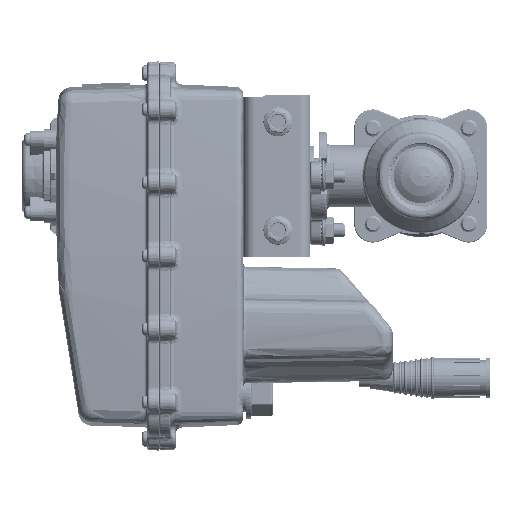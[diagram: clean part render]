
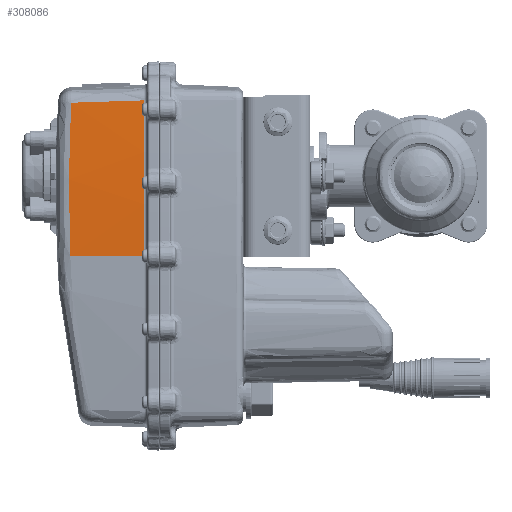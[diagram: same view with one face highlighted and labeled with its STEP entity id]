
A CAD part, left-side view. The second image highlights one B-rep face of the part: STEP entity #308086.
In plain terms, the highlighted conical face has half-angle 2 degrees and reference radius 762 mm.
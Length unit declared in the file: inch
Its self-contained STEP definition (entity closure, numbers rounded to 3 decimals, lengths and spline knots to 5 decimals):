
#14938 = CARTESIAN_POINT ( 'NONE',  ( -1.65876, 6.47431, 0.88221 ) ) ;
#18202 = VERTEX_POINT ( 'NONE', #313791 ) ;
#22752 = CARTESIAN_POINT ( 'NONE',  ( 28.1925, 5.1058, -1.47524 ) ) ;
#29828 = B_SPLINE_CURVE_WITH_KNOTS ( 'NONE', 3,
 ( #317030, #287986, #102514, #136312, #170126, #360309, #100168 ),
 .UNSPECIFIED., .F., .F.,
 ( 4, 3, 4 ),
 ( 0.00854, 0.02413, 0.04272 ),
 .UNSPECIFIED. ) ;
#37554 = VERTEX_POINT ( 'NONE', #336049 ) ;
#43450 = DIRECTION ( 'NONE',  ( 0., -1., 0. ) ) ;
#43454 = LINE ( 'NONE', #231249, #331273 ) ;
#55833 = CARTESIAN_POINT ( 'NONE',  ( -1.74496, 6.48118, -1.00366 ) ) ;
#74386 = ORIENTED_EDGE ( 'NONE', *, *, #338933, .T. ) ;
#79564 = FACE_OUTER_BOUND ( 'NONE', #80919, .T. ) ;
#80919 = EDGE_LOOP ( 'NONE', ( #74386, #131606, #349162, #316036 ) ) ;
#82304 = AXIS2_PLACEMENT_3D ( 'NONE', #265012, #43450, #226486 ) ;
#91966 = CARTESIAN_POINT ( 'NONE',  ( -1.72508, 6.49136, -0.29583 ) ) ;
#92445 = EDGE_CURVE ( 'NONE', #301001, #37554, #43454, .T. ) ;
#100168 = CARTESIAN_POINT ( 'NONE',  ( -1.61507, 6.44996, 1.35187 ) ) ;
#102514 = CARTESIAN_POINT ( 'NONE',  ( -1.645, 5.51451, 1.38209 ) ) ;
#127403 = CARTESIAN_POINT ( 'NONE',  ( -1.61507, 6.44996, 1.35187 ) ) ;
#128809 = DIRECTION ( 'NONE',  ( 0., 1., 0. ) ) ;
#131606 = ORIENTED_EDGE ( 'NONE', *, *, #92445, .T. ) ;
#136312 = CARTESIAN_POINT ( 'NONE',  ( -1.63846, 5.71887, 1.37549 ) ) ;
#170126 = CARTESIAN_POINT ( 'NONE',  ( -1.63067, 5.96257, 1.36762 ) ) ;
#191927 = EDGE_CURVE ( 'NONE', #18202, #443513, #29828, .T. ) ;
#197996 = CARTESIAN_POINT ( 'NONE',  ( -1.74833, 6.46428, -1.47524 ) ) ;
#216312 = CARTESIAN_POINT ( 'NONE',  ( -1.74833, 6.46428, -1.47524 ) ) ;
#226486 = DIRECTION ( 'NONE',  ( -1., 0., 0. ) ) ;
#231249 = CARTESIAN_POINT ( 'NONE',  ( -1.8075, 4.77, -1.47524 ) ) ;
#233710 = B_SPLINE_CURVE_WITH_KNOTS ( 'NONE', 3,
 ( #347322, #14938, #344947, #91966, #426741, #55833, #352051, #197996 ),
 .UNSPECIFIED., .F., .F.,
 ( 4, 2, 2, 4 ),
 ( 0., 0.03596, 0.05395, 0.07193 ),
 .UNSPECIFIED. ) ;
#265012 = CARTESIAN_POINT ( 'NONE',  ( 28.1925, 4.77, -1.47524 ) ) ;
#287986 = CARTESIAN_POINT ( 'NONE',  ( -1.65154, 5.31016, 1.38869 ) ) ;
#289977 = CONICAL_SURFACE ( 'NONE', #82304, 30., 0.035 ) ;
#299316 = AXIS2_PLACEMENT_3D ( 'NONE', #22752, #128809, #318995 ) ;
#301001 = VERTEX_POINT ( 'NONE', #216312 ) ;
#303522 = DIRECTION ( 'NONE',  ( -0.035, -0.999, 0. ) ) ;
#308086 = ADVANCED_FACE ( 'NONE', ( #79564 ), #289977, .T. ) ;
#313791 = CARTESIAN_POINT ( 'NONE',  ( -1.65807, 5.1058, 1.39528 ) ) ;
#316036 = ORIENTED_EDGE ( 'NONE', *, *, #191927, .T. ) ;
#317030 = CARTESIAN_POINT ( 'NONE',  ( -1.65807, 5.1058, 1.39528 ) ) ;
#318995 = DIRECTION ( 'NONE',  ( 1., 0., 0. ) ) ;
#331273 = VECTOR ( 'NONE', #303522, 39.37008 ) ;
#336049 = CARTESIAN_POINT ( 'NONE',  ( -1.79577, 5.1058, -1.47524 ) ) ;
#338933 = EDGE_CURVE ( 'NONE', #443513, #301001, #233710, .T. ) ;
#344947 = CARTESIAN_POINT ( 'NONE',  ( -1.69173, 6.48774, 0.41158 ) ) ;
#347322 = CARTESIAN_POINT ( 'NONE',  ( -1.61507, 6.44996, 1.35187 ) ) ;
#349162 = ORIENTED_EDGE ( 'NONE', *, *, #469207, .T. ) ;
#352051 = CARTESIAN_POINT ( 'NONE',  ( -1.74799, 6.47411, -1.23948 ) ) ;
#360309 = CARTESIAN_POINT ( 'NONE',  ( -1.62287, 6.20626, 1.35975 ) ) ;
#376007 = CIRCLE ( 'NONE', #299316, 29.98827 ) ;
#426741 = CARTESIAN_POINT ( 'NONE',  ( -1.73351, 6.48981, -0.53189 ) ) ;
#443513 = VERTEX_POINT ( 'NONE', #127403 ) ;
#469207 = EDGE_CURVE ( 'NONE', #37554, #18202, #376007, .T. ) ;
